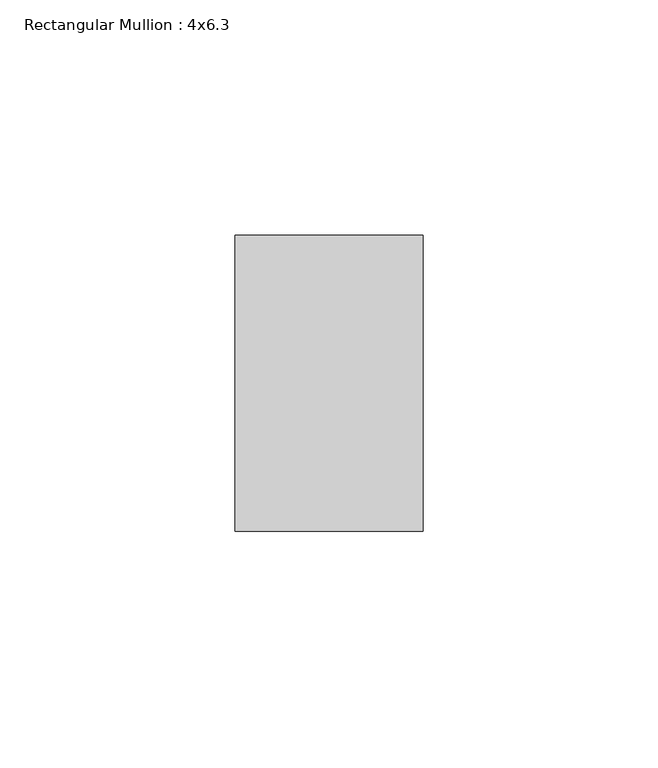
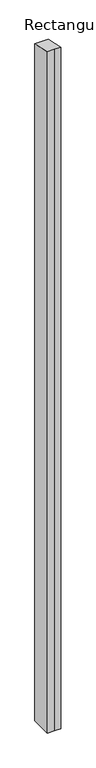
"""IFC4 building model written with IfcOpenShell, lengths in millimetres: member geometry, Rectangular Mullion : 4x6.3."""

from ifc_helpers import new_model, si_unit, origin, place, context, project, spatial, faceted_brep, source, transform, mapped, element, save


def rectangular_mullion_4x6_3_2b915968(model_context):
    return source(origin(), model_context, "Body", "Brep", [
        faceted_brep([(-20.0, 20.0, -2125.1625534), (-20.0, 83.0, -2125.1625534), (20.0, 83.0, -2125.1625534), (20.0, 20.0, -2125.1625534), (0.0, 20.0, -2125.1625534), (0.0, 20.0, -4.3995804), (-20.0, 20.0, -4.3995804), (20.0, 20.0, -4.3995804), (20.0, 83.0, -18.2582585), (-20.0, 83.0, -18.2582585)], [[[0, 1, 2, 3, 4]], [[5, 6, 0, 4]], [[7, 5, 4, 3]], [[8, 7, 3, 2]], [[9, 8, 2, 1]], [[6, 9, 1, 0]], [[6, 5, 7, 8, 9]]]),
    ])


if __name__ == "__main__":
    model = new_model("IFC4")
    model_context = context("Model", 3, world=origin())
    ifc_project = project(units=[si_unit("LENGTHUNIT", "METRE", prefix="MILLI")], contexts=[model_context])
    site = spatial("IfcSite", under=ifc_project)
    building = spatial("IfcBuilding", under=site)
    placement = place(None, origin())
    rectangular_mullion_4x6_3_shape = rectangular_mullion_4x6_3_2b915968(model_context)
    element("IfcMember", 1, ObjectType="Rectangular Mullion : 4x6.3", at=placement, inside=building, context=model_context, shape_type="MappedRepresentation", body=[
        mapped(rectangular_mullion_4x6_3_shape, transform((0.0, 0.0, 0.0), x_axis=(1.0, 0.0, 0.0), y_axis=(0.0, 1.0, 0.0), z_axis=(0.0, 0.0, 1.0))),
    ])
    save(model, "model.ifc")
